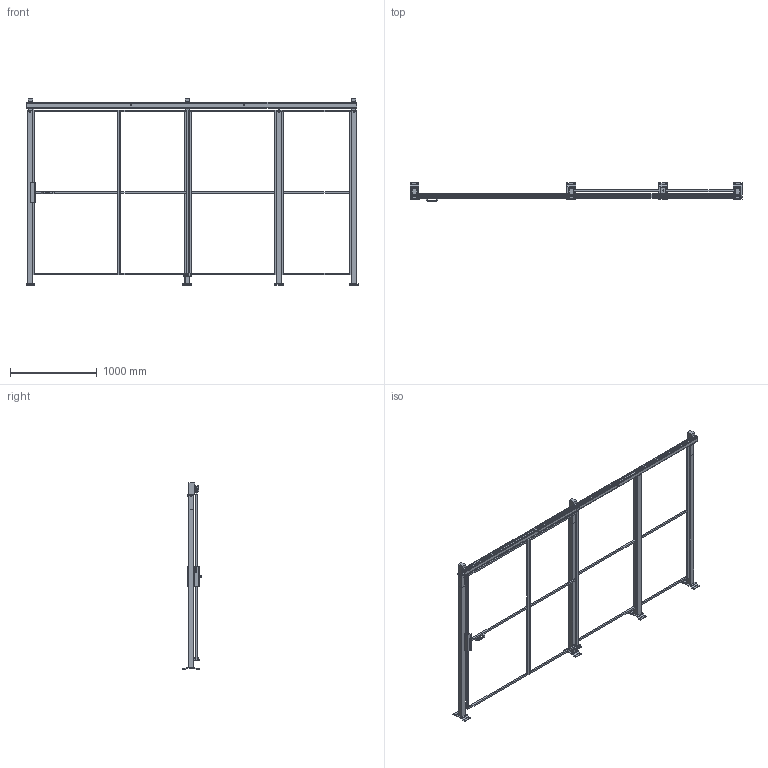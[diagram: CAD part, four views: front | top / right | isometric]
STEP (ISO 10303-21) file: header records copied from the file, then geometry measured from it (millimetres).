
FILE_DESCRIPTION(/* description */ (''),/* implementation_level */ '2;1');
FILE_NAME(/* name */ 'C:\SafeGuarding\ELABORATI\VZOR§POSUVNE_1950x2320_2025-02-13-13-19-34.stp',/* time_stamp */ '2025-02-13T13:19:37+01:00',/* author */ ('admin'),/* organization */ (''),/* preprocessor_version */ 'ST-DEVELOPER v18.1',/* originating_system */ 'AutoCAD Mechanical',/* authorisation */ '');
FILE_SCHEMA (('AUTOMOTIVE_DESIGN { 1 0 10303 214 3 1 1 }','MODEL_BASED_INTEGRATED_MANUFACTURING_SCHEMA'));
Length unit declared in the file: millimetre
Products named in the file (5): Product; R_VFPA.REPE20.08001900; R_VFPA.REPE20.10001900; DATI_PORTA; P_VFMA.ME60SDU.2020
Assembly tree (9 placements, depth 2):
  Product
    P_VFMA.ME60SDU.2020  x4
    R_VFPA.REPE20.08001900  x2
    R_VFPA.REPE20.10001900  x2
    DATI_PORTA
Bounding box: 3830 x 219.95 x 2154 mm (x, y, z)
Volume: 49065299 mm3; surface area: 6852852.5 mm2
Topology: 50 solids, 61 shells, 667 faces, 2170 edges, 2156 vertices
Faces by surface type: plane 619, cylinder 46, sphere 2
Full cylindrical faces by diameter (mm): 11 x16, 12 x2, 15 x4, 40 x4
Entity records: 15510 total; most frequent: CARTESIAN_POINT 3282, DIRECTION 2344, ORIENTED_EDGE 2262, EDGE_CURVE 1180, LINE 1176, VECTOR 1176, VERTEX_POINT 828, AXIS2_PLACEMENT_3D 584
